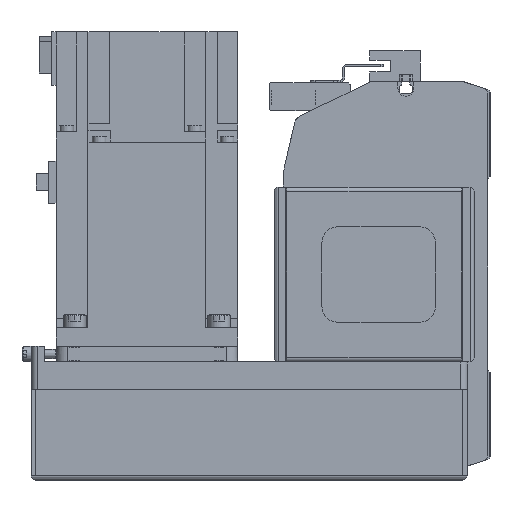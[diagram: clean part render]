
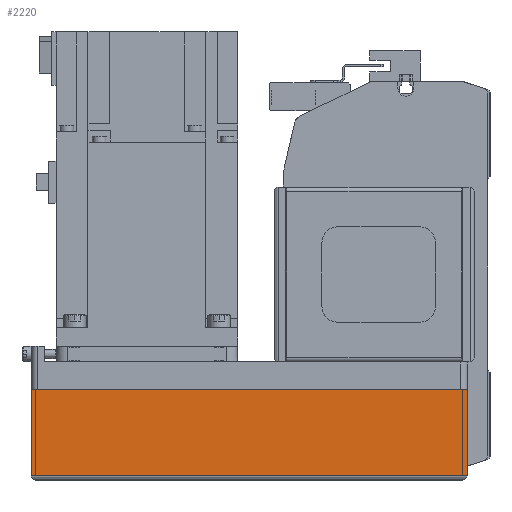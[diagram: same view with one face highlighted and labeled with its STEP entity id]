
A CAD part, left-side view. The second image highlights one B-rep face of the part: STEP entity #2220.
In plain terms, the highlighted planar face has unit normal (-1, 0, 0) as drawn and (0, -1, 0) by its records, which use the part's own axes.
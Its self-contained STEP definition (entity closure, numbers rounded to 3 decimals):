
#2220 = ADVANCED_FACE( '', ( #5027 ), #5028, .T. );
#5027 = FACE_OUTER_BOUND( '', #8521, .T. );
#5028 = PLANE( '', #8522 );
#8521 = EDGE_LOOP( '', ( #14839, #14840, #14841, #14842 ) );
#8522 = AXIS2_PLACEMENT_3D( '', #14843, #14844, #14845 );
#14839 = ORIENTED_EDGE( '', *, *, #22125, .F. );
#14840 = ORIENTED_EDGE( '', *, *, #22126, .F. );
#14841 = ORIENTED_EDGE( '', *, *, #20009, .T. );
#14842 = ORIENTED_EDGE( '', *, *, #21942, .T. );
#14843 = CARTESIAN_POINT( '', ( -192., -40., -12.1 ) );
#14844 = DIRECTION( '', ( 0., -1., 0. ) );
#14845 = DIRECTION( '', ( 0., 0., -1. ) );
#20009 = EDGE_CURVE( '', #23868, #23866, #23869, .T. );
#21942 = EDGE_CURVE( '', #23866, #23731, #26993, .T. );
#22125 = EDGE_CURVE( '', #24647, #23731, #27261, .T. );
#22126 = EDGE_CURVE( '', #23868, #24647, #27262, .T. );
#23731 = VERTEX_POINT( '', #29308 );
#23866 = VERTEX_POINT( '', #29537 );
#23868 = VERTEX_POINT( '', #29540 );
#23869 = LINE( '', #29541, #29542 );
#24647 = VERTEX_POINT( '', #30875 );
#26993 = LINE( '', #34524, #34525 );
#27261 = LINE( '', #34890, #34891 );
#27262 = LINE( '', #34892, #34893 );
#29308 = CARTESIAN_POINT( '', ( 0., -40., -50. ) );
#29537 = CARTESIAN_POINT( '', ( -192., -40., -50. ) );
#29540 = CARTESIAN_POINT( '', ( -192., -40., -12.1 ) );
#29541 = CARTESIAN_POINT( '', ( -192., -40., -12.1 ) );
#29542 = VECTOR( '', #37314, 1000. );
#30875 = CARTESIAN_POINT( '', ( 0., -40., -12.1 ) );
#34524 = CARTESIAN_POINT( '', ( -192., -40., -50. ) );
#34525 = VECTOR( '', #39716, 1000. );
#34890 = CARTESIAN_POINT( '', ( 0., -40., -12.1 ) );
#34891 = VECTOR( '', #39956, 1000. );
#34892 = CARTESIAN_POINT( '', ( -192., -40., -12.1 ) );
#34893 = VECTOR( '', #39957, 1000. );
#37314 = DIRECTION( '', ( 0., 0., -1. ) );
#39716 = DIRECTION( '', ( 1., 0., 0. ) );
#39956 = DIRECTION( '', ( 0., 0., -1. ) );
#39957 = DIRECTION( '', ( 1., 0., 0. ) );
